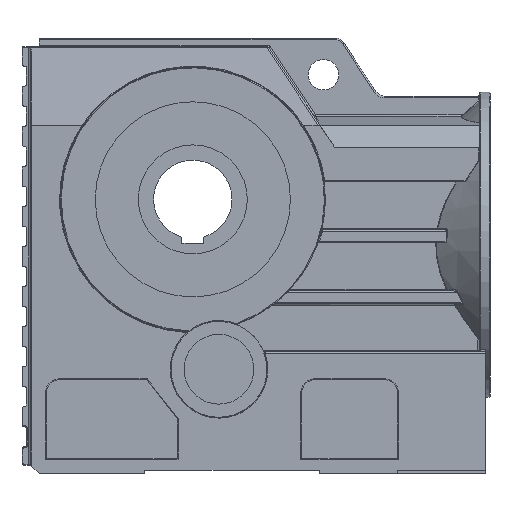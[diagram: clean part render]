
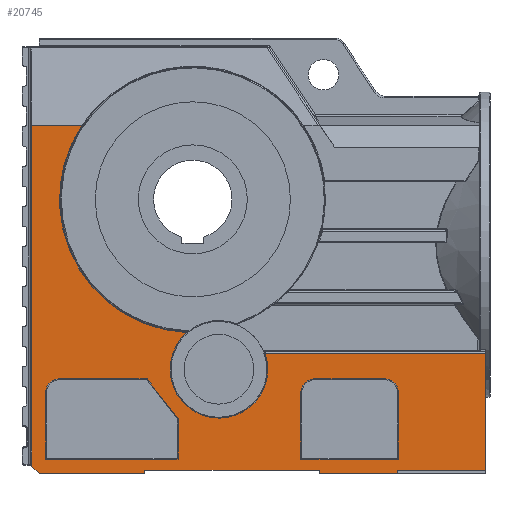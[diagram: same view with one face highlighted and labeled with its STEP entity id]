
A CAD part, front view. The second image highlights one B-rep face of the part: STEP entity #20745.
In plain terms, the highlighted planar face has unit normal (0, -1, 0).
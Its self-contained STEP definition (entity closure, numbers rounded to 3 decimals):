
#2760=CARTESIAN_POINT('',(12.856,-133.0,138.5));
#2761=VERTEX_POINT('',#2760);
#2837=CARTESIAN_POINT('',(266.0,-133.0,138.5));
#2838=VERTEX_POINT('',#2837);
#2855=CARTESIAN_POINT('',(12.856,-133.0,138.5));
#2856=DIRECTION('',(1.0,0.0,0.0));
#2857=VECTOR('',#2856,253.144);
#2858=LINE('',#2855,#2857);
#2859=EDGE_CURVE('',#2761,#2838,#2858,.T.);
#2949=CARTESIAN_POINT('',(266.0,-133.0,4.0));
#2950=VERTEX_POINT('',#2949);
#2951=CARTESIAN_POINT('',(266.0,-133.0,4.0));
#2952=DIRECTION('',(0.0,0.0,1.0));
#2953=VECTOR('',#2952,134.5);
#2954=LINE('',#2951,#2953);
#2955=EDGE_CURVE('',#2950,#2838,#2954,.T.);
#11290=CARTESIAN_POINT('',(-255.0,-133.0,9.));
#11291=VERTEX_POINT('',#11290);
#11299=CARTESIAN_POINT('',(-255.,-133.0,400.0));
#11300=VERTEX_POINT('',#11299);
#11301=CARTESIAN_POINT('',(-255.0,-133.0,9.));
#11302=DIRECTION('',(0.0,0.0,1.0));
#11303=VECTOR('',#11302,391.);
#11304=LINE('',#11301,#11303);
#11305=EDGE_CURVE('',#11291,#11300,#11304,.T.);
#11504=CARTESIAN_POINT('',(-246.0,-133.0,0.0));
#11505=VERTEX_POINT('',#11504);
#11512=CARTESIAN_POINT('',(-246.,-133.0,0.));
#11513=DIRECTION('',(-0.707,0.0,0.707));
#11514=VECTOR('',#11513,12.728);
#11515=LINE('',#11512,#11514);
#11516=EDGE_CURVE('',#11505,#11291,#11515,.T.);
#16698=CARTESIAN_POINT('',(-197.216,-133.0,400.0));
#16699=VERTEX_POINT('',#16698);
#16700=CARTESIAN_POINT('',(-255.0,-133.0,400.0));
#16701=DIRECTION('',(1.0,0.0,0.0));
#16702=VECTOR('',#16701,57.784);
#16703=LINE('',#16700,#16702);
#16704=EDGE_CURVE('',#11300,#16699,#16703,.T.);
#18584=CARTESIAN_POINT('',(-76.865,-133.0,162.154));
#18585=VERTEX_POINT('',#18584);
#18593=CARTESIAN_POINT('',(-40.,-133.0,120.));
#18594=DIRECTION('',(0.0,-1.,0.0));
#18595=DIRECTION('',(-0.247,0.0,-0.969));
#18596=AXIS2_PLACEMENT_3D('',#18593,#18594,#18595);
#18597=CIRCLE('',#18596,56.);
#18598=EDGE_CURVE('',#18585,#2761,#18597,.T.);
#19104=CARTESIAN_POINT('',(-70.0,-133.0,315.0));
#19105=DIRECTION('',(0.0,-1.0,0.0));
#19106=DIRECTION('',(-0.889,0.0,-0.457));
#19107=AXIS2_PLACEMENT_3D('',#19104,#19105,#19106);
#19108=CIRCLE('',#19107,153.0);
#19109=EDGE_CURVE('',#16699,#18585,#19108,.T.);
#20350=CARTESIAN_POINT('',(54.,-133.0,93.));
#20351=VERTEX_POINT('',#20350);
#20359=CARTESIAN_POINT('',(54.0,-133.0,17.));
#20360=VERTEX_POINT('',#20359);
#20361=CARTESIAN_POINT('',(54.,-133.0,93.));
#20362=DIRECTION('',(0.0,0.0,-1.0));
#20363=VECTOR('',#20362,76.0);
#20364=LINE('',#20361,#20363);
#20365=EDGE_CURVE('',#20351,#20360,#20364,.T.);
#20390=CARTESIAN_POINT('',(166.,-133.0,93.));
#20391=VERTEX_POINT('',#20390);
#20409=CARTESIAN_POINT('',(166.0,-133.0,17.));
#20410=VERTEX_POINT('',#20409);
#20418=CARTESIAN_POINT('',(166.0,-133.0,17.));
#20419=DIRECTION('',(0.0,0.0,1.0));
#20420=VECTOR('',#20419,76.0);
#20421=LINE('',#20418,#20420);
#20422=EDGE_CURVE('',#20410,#20391,#20421,.T.);
#20432=CARTESIAN_POINT('',(150.0,-133.0,109.));
#20433=VERTEX_POINT('',#20432);
#20451=CARTESIAN_POINT('',(150.0,-133.0,93.));
#20452=DIRECTION('',(0.0,-1.,0.0));
#20453=DIRECTION('',(0.707,0.0,0.707));
#20454=AXIS2_PLACEMENT_3D('',#20451,#20452,#20453);
#20455=CIRCLE('',#20454,16.0);
#20456=EDGE_CURVE('',#20391,#20433,#20455,.T.);
#20473=CARTESIAN_POINT('',(54.0,-133.0,17.));
#20474=DIRECTION('',(1.0,0.0,0.0));
#20475=VECTOR('',#20474,112.0);
#20476=LINE('',#20473,#20475);
#20477=EDGE_CURVE('',#20360,#20410,#20476,.T.);
#20488=CARTESIAN_POINT('',(70.0,-133.0,109.));
#20489=VERTEX_POINT('',#20488);
#20506=CARTESIAN_POINT('',(150.0,-133.0,109.));
#20507=DIRECTION('',(-1.0,0.0,0.0));
#20508=VECTOR('',#20507,80.0);
#20509=LINE('',#20506,#20508);
#20510=EDGE_CURVE('',#20433,#20489,#20509,.T.);
#20521=CARTESIAN_POINT('',(70.,-133.0,93.));
#20522=DIRECTION('',(0.0,-1.0,0.0));
#20523=DIRECTION('',(-0.707,0.0,0.707));
#20524=AXIS2_PLACEMENT_3D('',#20521,#20522,#20523);
#20525=CIRCLE('',#20524,16.0);
#20526=EDGE_CURVE('',#20489,#20351,#20525,.T.);
#20618=CARTESIAN_POINT('',(266.0,-133.0,0.0));
#20619=DIRECTION('',(0.0,-1.0,0.0));
#20620=DIRECTION('',(0.0,0.0,-1.0));
#20621=AXIS2_PLACEMENT_3D('',#20618,#20619,#20620);
#20622=PLANE('',#20621);
#20623=ORIENTED_EDGE('',*,*,#2859,.F.);
#20624=ORIENTED_EDGE('',*,*,#18598,.F.);
#20625=ORIENTED_EDGE('',*,*,#19109,.F.);
#20626=ORIENTED_EDGE('',*,*,#16704,.F.);
#20627=ORIENTED_EDGE('',*,*,#11305,.F.);
#20628=ORIENTED_EDGE('',*,*,#11516,.F.);
#20629=CARTESIAN_POINT('',(-125.0,-133.0,0.0));
#20630=VERTEX_POINT('',#20629);
#20631=CARTESIAN_POINT('',(-246.0,-133.0,0.0));
#20632=DIRECTION('',(1.0,0.0,0.0));
#20633=VECTOR('',#20632,121.0);
#20634=LINE('',#20631,#20633);
#20635=EDGE_CURVE('',#11505,#20630,#20634,.T.);
#20636=ORIENTED_EDGE('',*,*,#20635,.T.);
#20637=CARTESIAN_POINT('',(-125.0,-133.0,4.0));
#20638=VERTEX_POINT('',#20637);
#20639=CARTESIAN_POINT('',(-125.0,-133.0,0.0));
#20640=DIRECTION('',(0.0,0.0,1.0));
#20641=VECTOR('',#20640,4.0);
#20642=LINE('',#20639,#20641);
#20643=EDGE_CURVE('',#20630,#20638,#20642,.T.);
#20644=ORIENTED_EDGE('',*,*,#20643,.T.);
#20645=CARTESIAN_POINT('',(75.0,-133.0,4.0));
#20646=VERTEX_POINT('',#20645);
#20647=CARTESIAN_POINT('',(-125.0,-133.0,4.0));
#20648=DIRECTION('',(1.0,0.0,0.0));
#20649=VECTOR('',#20648,200.0);
#20650=LINE('',#20647,#20649);
#20651=EDGE_CURVE('',#20638,#20646,#20650,.T.);
#20652=ORIENTED_EDGE('',*,*,#20651,.T.);
#20653=CARTESIAN_POINT('',(75.0,-133.0,0.0));
#20654=VERTEX_POINT('',#20653);
#20655=CARTESIAN_POINT('',(75.0,-133.0,4.0));
#20656=DIRECTION('',(0.0,0.0,-1.0));
#20657=VECTOR('',#20656,4.0);
#20658=LINE('',#20655,#20657);
#20659=EDGE_CURVE('',#20646,#20654,#20658,.T.);
#20660=ORIENTED_EDGE('',*,*,#20659,.T.);
#20661=CARTESIAN_POINT('',(165.0,-133.0,0.0));
#20662=VERTEX_POINT('',#20661);
#20663=CARTESIAN_POINT('',(75.0,-133.0,0.0));
#20664=DIRECTION('',(1.0,0.0,0.0));
#20665=VECTOR('',#20664,90.0);
#20666=LINE('',#20663,#20665);
#20667=EDGE_CURVE('',#20654,#20662,#20666,.T.);
#20668=ORIENTED_EDGE('',*,*,#20667,.T.);
#20669=CARTESIAN_POINT('',(165.0,-133.0,4.0));
#20670=VERTEX_POINT('',#20669);
#20671=CARTESIAN_POINT('',(165.0,-133.0,0.0));
#20672=DIRECTION('',(0.0,0.0,1.0));
#20673=VECTOR('',#20672,4.0);
#20674=LINE('',#20671,#20673);
#20675=EDGE_CURVE('',#20662,#20670,#20674,.T.);
#20676=ORIENTED_EDGE('',*,*,#20675,.T.);
#20677=CARTESIAN_POINT('',(165.0,-133.0,4.0));
#20678=DIRECTION('',(1.0,0.0,0.0));
#20679=VECTOR('',#20678,101.0);
#20680=LINE('',#20677,#20679);
#20681=EDGE_CURVE('',#20670,#2950,#20680,.T.);
#20682=ORIENTED_EDGE('',*,*,#20681,.T.);
#20683=ORIENTED_EDGE('',*,*,#2955,.T.);
#20684=EDGE_LOOP('',(#20623,#20624,#20625,#20626,#20627,#20628,#20636,#20644,#20652,#20660,#20668,#20676,#20682,#20683));
#20685=FACE_OUTER_BOUND('',#20684,.T.);
#20686=CARTESIAN_POINT('',(-87.,-133.0,17.));
#20687=VERTEX_POINT('',#20686);
#20688=CARTESIAN_POINT('',(-87.,-133.0,63.343));
#20689=VERTEX_POINT('',#20688);
#20690=CARTESIAN_POINT('',(-87.,-133.0,17.));
#20691=DIRECTION('',(0.0,0.0,1.0));
#20692=VECTOR('',#20691,46.343);
#20693=LINE('',#20690,#20692);
#20694=EDGE_CURVE('',#20687,#20689,#20693,.T.);
#20695=ORIENTED_EDGE('',*,*,#20694,.F.);
#20696=CARTESIAN_POINT('',(-239.0,-133.0,17.));
#20697=VERTEX_POINT('',#20696);
#20698=CARTESIAN_POINT('',(-239.,-133.0,17.));
#20699=DIRECTION('',(1.0,0.0,0.0));
#20700=VECTOR('',#20699,152.);
#20701=LINE('',#20698,#20700);
#20702=EDGE_CURVE('',#20697,#20687,#20701,.T.);
#20703=ORIENTED_EDGE('',*,*,#20702,.F.);
#20704=CARTESIAN_POINT('',(-239.0,-133.0,93.));
#20705=VERTEX_POINT('',#20704);
#20706=CARTESIAN_POINT('',(-239.,-133.0,93.));
#20707=DIRECTION('',(0.0,0.0,-1.0));
#20708=VECTOR('',#20707,76.0);
#20709=LINE('',#20706,#20708);
#20710=EDGE_CURVE('',#20705,#20697,#20709,.T.);
#20711=ORIENTED_EDGE('',*,*,#20710,.F.);
#20712=CARTESIAN_POINT('',(-223.,-133.0,109.));
#20713=VERTEX_POINT('',#20712);
#20714=CARTESIAN_POINT('',(-223.,-133.0,93.));
#20715=DIRECTION('',(0.0,-1.,0.0));
#20716=DIRECTION('',(-0.707,0.0,0.707));
#20717=AXIS2_PLACEMENT_3D('',#20714,#20715,#20716);
#20718=CIRCLE('',#20717,16.0);
#20719=EDGE_CURVE('',#20713,#20705,#20718,.T.);
#20720=ORIENTED_EDGE('',*,*,#20719,.F.);
#20721=CARTESIAN_POINT('',(-122.511,-133.0,109.));
#20722=VERTEX_POINT('',#20721);
#20723=CARTESIAN_POINT('',(-122.511,-133.0,109.));
#20724=DIRECTION('',(-1.0,0.0,0.0));
#20725=VECTOR('',#20724,100.489);
#20726=LINE('',#20723,#20725);
#20727=EDGE_CURVE('',#20722,#20713,#20726,.T.);
#20728=ORIENTED_EDGE('',*,*,#20727,.F.);
#20729=CARTESIAN_POINT('',(-87.,-133.0,63.343));
#20730=DIRECTION('',(-0.614,0.0,0.789));
#20731=VECTOR('',#20730,57.841);
#20732=LINE('',#20729,#20731);
#20733=EDGE_CURVE('',#20689,#20722,#20732,.T.);
#20734=ORIENTED_EDGE('',*,*,#20733,.F.);
#20735=EDGE_LOOP('',(#20695,#20703,#20711,#20720,#20728,#20734));
#20736=FACE_BOUND('',#20735,.T.);
#20737=ORIENTED_EDGE('',*,*,#20422,.F.);
#20738=ORIENTED_EDGE('',*,*,#20477,.F.);
#20739=ORIENTED_EDGE('',*,*,#20365,.F.);
#20740=ORIENTED_EDGE('',*,*,#20526,.F.);
#20741=ORIENTED_EDGE('',*,*,#20510,.F.);
#20742=ORIENTED_EDGE('',*,*,#20456,.F.);
#20743=EDGE_LOOP('',(#20737,#20738,#20739,#20740,#20741,#20742));
#20744=FACE_BOUND('',#20743,.T.);
#20745=ADVANCED_FACE('',(#20685,#20736,#20744),#20622,.T.);
